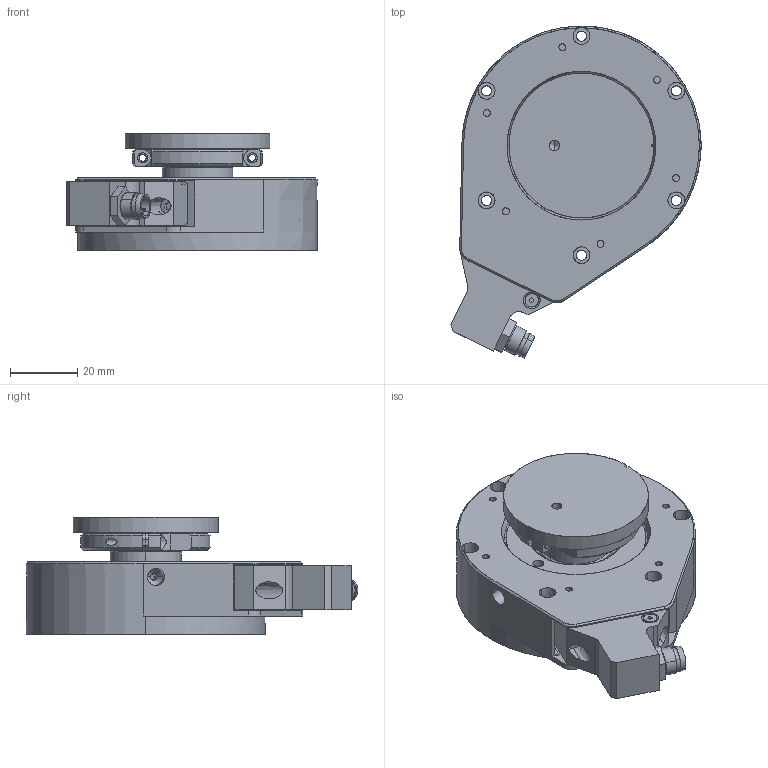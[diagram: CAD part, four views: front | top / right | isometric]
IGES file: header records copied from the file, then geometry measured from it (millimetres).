
Start section: Comment
Global section: file name: 99-0009A.igs; native system: Parasolid(12.0); preprocessor: Pariges 4.4; author: Author; organization: Title; date: 20010622.092725; units: millimetre
Bounding box: 74.24 x 98.52 x 34.75 mm (x, y, z)
Surface area: 45180 mm2 (no closed solid volume)
Topology: 0 solids, 0 shells, 754 faces, 8772 edges, 8737 vertices
Faces by surface type: revolution 534, extrusion 220
